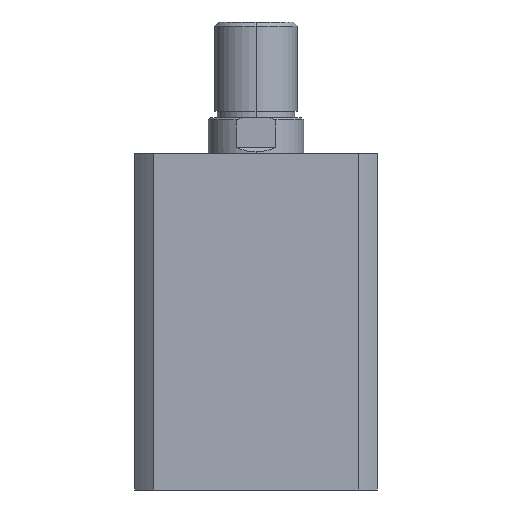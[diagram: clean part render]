
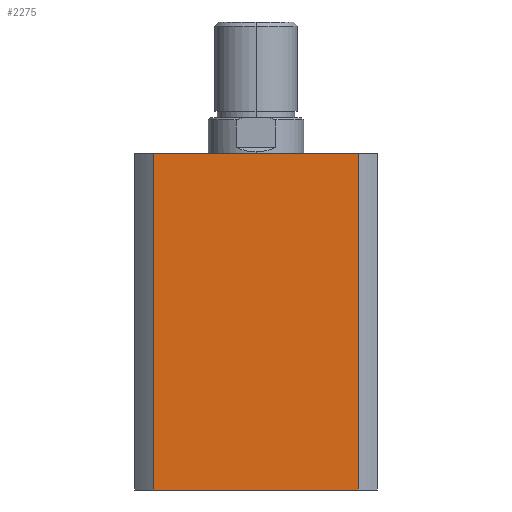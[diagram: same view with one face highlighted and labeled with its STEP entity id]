
A CAD part, left-side view. The second image highlights one B-rep face of the part: STEP entity #2275.
In plain terms, the highlighted planar face has unit normal (-1, 0, 0).
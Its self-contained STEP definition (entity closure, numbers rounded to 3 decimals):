
#172 = EDGE_LOOP ( 'NONE', ( #1483, #1482, #1481, #1480 ) ) ;
#295 = AXIS2_PLACEMENT_3D ( 'NONE', #1184, #1176, #1175 ) ;
#421 = EDGE_CURVE ( 'NONE', #3598, #3558, #2961, .T. ) ;
#425 = EDGE_CURVE ( 'NONE', #3610, #3505, #2966, .T. ) ;
#426 = EDGE_CURVE ( 'NONE', #3598, #3610, #2969, .T. ) ;
#971 = DIRECTION ( 'NONE',  ( 0., -1., 0. ) ) ;
#973 = CARTESIAN_POINT ( 'NONE',  ( -57., 0., 0. ) ) ;
#1175 = DIRECTION ( 'NONE',  ( 0., 0., -1. ) ) ;
#1176 = DIRECTION ( 'NONE',  ( 1., 0., 0. ) ) ;
#1179 = PLANE ( 'NONE',  #295 ) ;
#1184 = CARTESIAN_POINT ( 'NONE',  ( -57., 0., 158. ) ) ;
#1480 = ORIENTED_EDGE ( 'NONE', *, *, #421, .T. ) ;
#1481 = ORIENTED_EDGE ( 'NONE', *, *, #426, .F. ) ;
#1482 = ORIENTED_EDGE ( 'NONE', *, *, #425, .F. ) ;
#1483 = ORIENTED_EDGE ( 'NONE', *, *, #1708, .T. ) ;
#1708 = EDGE_CURVE ( 'NONE', #3558, #3505, #4324, .T. ) ;
#2275 = ADVANCED_FACE ( 'NONE', ( #3701 ), #1179, .F. ) ;
#2563 = DIRECTION ( 'NONE',  ( 0., -1., 0. ) ) ;
#2577 = DIRECTION ( 'NONE',  ( 0., 0., -1. ) ) ;
#2589 = CARTESIAN_POINT ( 'NONE',  ( -57., 0., 158. ) ) ;
#2591 = CARTESIAN_POINT ( 'NONE',  ( -57., -47.971, 158. ) ) ;
#2602 = CARTESIAN_POINT ( 'NONE',  ( -57., 47.971, 158. ) ) ;
#2641 = DIRECTION ( 'NONE',  ( 0., 0., -1. ) ) ;
#2961 = LINE ( 'NONE', #2602, #2967 ) ;
#2966 = LINE ( 'NONE', #2591, #2972 ) ;
#2967 = VECTOR ( 'NONE', #2641, 1000. ) ;
#2969 = LINE ( 'NONE', #2589, #2974 ) ;
#2972 = VECTOR ( 'NONE', #2577, 1000. ) ;
#2974 = VECTOR ( 'NONE', #2563, 1000. ) ;
#3235 = CARTESIAN_POINT ( 'NONE',  ( -57., -47.971, 158. ) ) ;
#3248 = CARTESIAN_POINT ( 'NONE',  ( -57., 47.971, 158. ) ) ;
#3290 = CARTESIAN_POINT ( 'NONE',  ( -57., 47.971, 0. ) ) ;
#3350 = CARTESIAN_POINT ( 'NONE',  ( -57., -47.971, 0. ) ) ;
#3505 = VERTEX_POINT ( 'NONE', #3350 ) ;
#3558 = VERTEX_POINT ( 'NONE', #3290 ) ;
#3598 = VERTEX_POINT ( 'NONE', #3248 ) ;
#3610 = VERTEX_POINT ( 'NONE', #3235 ) ;
#3701 = FACE_OUTER_BOUND ( 'NONE', #172, .T. ) ;
#4324 = LINE ( 'NONE', #973, #4326 ) ;
#4326 = VECTOR ( 'NONE', #971, 1000. ) ;
